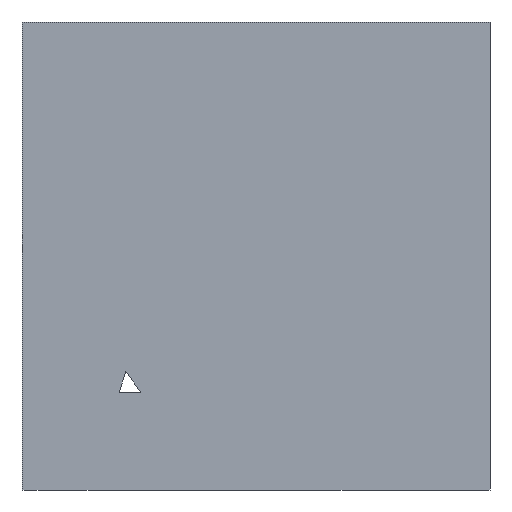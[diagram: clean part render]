
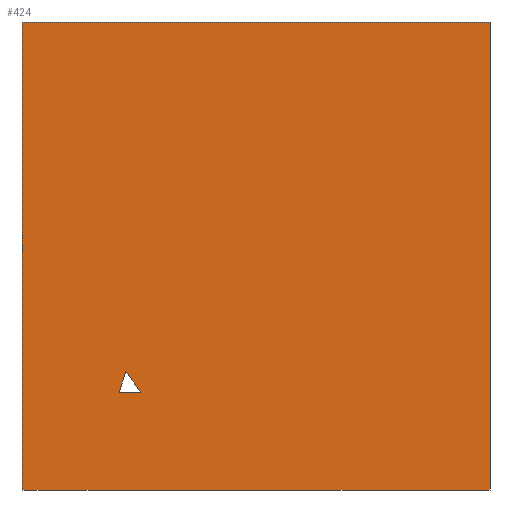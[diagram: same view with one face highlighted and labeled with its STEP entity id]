
A CAD part, front view. The second image highlights one B-rep face of the part: STEP entity #424.
In plain terms, the highlighted planar face has unit normal (0, -1, 0).
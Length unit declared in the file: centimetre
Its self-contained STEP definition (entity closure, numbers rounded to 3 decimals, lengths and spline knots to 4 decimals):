
#26 = CARTESIAN_POINT ( 'NONE',  ( 0., 0., 1000. ) ) ;
#29 = ORIENTED_EDGE ( 'NONE', *, *, #34, .T. ) ;
#31 = CARTESIAN_POINT ( 'NONE',  ( 222.1901, 0., 253.1845 ) ) ;
#34 = EDGE_CURVE ( 'NONE', #215, #506, #132, .T. ) ;
#51 = ORIENTED_EDGE ( 'NONE', *, *, #519, .F. ) ;
#52 = CARTESIAN_POINT ( 'NONE',  ( 1000., 0., 1000. ) ) ;
#54 = CARTESIAN_POINT ( 'NONE',  ( 0., 0., 1000. ) ) ;
#63 = CARTESIAN_POINT ( 'NONE',  ( 207.8131, 0., 208.3742 ) ) ;
#69 = DIRECTION ( 'NONE',  ( 0.306, 0., 0.952 ) ) ;
#108 = VECTOR ( 'NONE', #250, 100. ) ;
#114 = DIRECTION ( 'NONE',  ( 0., 0., -1. ) ) ;
#122 = DIRECTION ( 'NONE',  ( 0., 1., 0. ) ) ;
#131 = VERTEX_POINT ( 'NONE', #357 ) ;
#132 = LINE ( 'NONE', #63, #500 ) ;
#144 = LINE ( 'NONE', #31, #438 ) ;
#153 = EDGE_CURVE ( 'NONE', #506, #643, #144, .T. ) ;
#164 = EDGE_CURVE ( 'NONE', #131, #458, #472, .T. ) ;
#177 = CARTESIAN_POINT ( 'NONE',  ( 0., 0., 1000. ) ) ;
#192 = DIRECTION ( 'NONE',  ( -1., 0., 0. ) ) ;
#196 = LINE ( 'NONE', #388, #521 ) ;
#201 = EDGE_LOOP ( 'NONE', ( #598, #589, #29 ) ) ;
#214 = DIRECTION ( 'NONE',  ( 0.577, 0., -0.817 ) ) ;
#215 = VERTEX_POINT ( 'NONE', #705 ) ;
#222 = VECTOR ( 'NONE', #409, 100. ) ;
#225 = CARTESIAN_POINT ( 'NONE',  ( 222.1901, 0., 253.1845 ) ) ;
#250 = DIRECTION ( 'NONE',  ( 1., 0., 0. ) ) ;
#270 = CARTESIAN_POINT ( 'NONE',  ( 1000., 0., 1000. ) ) ;
#357 = CARTESIAN_POINT ( 'NONE',  ( 0., 0., 0. ) ) ;
#388 = CARTESIAN_POINT ( 'NONE',  ( 253.8085, 0., 208.3742 ) ) ;
#399 = EDGE_LOOP ( 'NONE', ( #460, #622, #51, #612 ) ) ;
#409 = DIRECTION ( 'NONE',  ( 1., 0., 0. ) ) ;
#424 = ADVANCED_FACE ( 'NONE', ( #446, #503 ), #665, .F. ) ;
#438 = VECTOR ( 'NONE', #69, 100. ) ;
#446 = FACE_BOUND ( 'NONE', #201, .T. ) ;
#453 = CARTESIAN_POINT ( 'NONE',  ( 0., 0., 1000. ) ) ;
#458 = VERTEX_POINT ( 'NONE', #574 ) ;
#460 = ORIENTED_EDGE ( 'NONE', *, *, #164, .T. ) ;
#461 = CARTESIAN_POINT ( 'NONE',  ( 0., 0., 0. ) ) ;
#472 = LINE ( 'NONE', #461, #222 ) ;
#481 = VECTOR ( 'NONE', #114, 100. ) ;
#500 = VECTOR ( 'NONE', #192, 100. ) ;
#503 = FACE_OUTER_BOUND ( 'NONE', #399, .T. ) ;
#506 = VERTEX_POINT ( 'NONE', #579 ) ;
#519 = EDGE_CURVE ( 'NONE', #694, #529, #520, .T. ) ;
#520 = LINE ( 'NONE', #26, #108 ) ;
#521 = VECTOR ( 'NONE', #214, 100. ) ;
#524 = EDGE_CURVE ( 'NONE', #643, #215, #196, .T. ) ;
#529 = VERTEX_POINT ( 'NONE', #52 ) ;
#555 = EDGE_CURVE ( 'NONE', #529, #458, #597, .T. ) ;
#574 = CARTESIAN_POINT ( 'NONE',  ( 1000., 0., 0. ) ) ;
#579 = CARTESIAN_POINT ( 'NONE',  ( 207.8131, 0., 208.3742 ) ) ;
#589 = ORIENTED_EDGE ( 'NONE', *, *, #524, .T. ) ;
#597 = LINE ( 'NONE', #270, #609 ) ;
#598 = ORIENTED_EDGE ( 'NONE', *, *, #153, .T. ) ;
#604 = LINE ( 'NONE', #54, #481 ) ;
#609 = VECTOR ( 'NONE', #710, 100. ) ;
#610 = DIRECTION ( 'NONE',  ( 0., 0., 1. ) ) ;
#612 = ORIENTED_EDGE ( 'NONE', *, *, #660, .T. ) ;
#622 = ORIENTED_EDGE ( 'NONE', *, *, #555, .F. ) ;
#643 = VERTEX_POINT ( 'NONE', #225 ) ;
#660 = EDGE_CURVE ( 'NONE', #694, #131, #604, .T. ) ;
#665 = PLANE ( 'NONE',  #667 ) ;
#667 = AXIS2_PLACEMENT_3D ( 'NONE', #177, #122, #610 ) ;
#694 = VERTEX_POINT ( 'NONE', #453 ) ;
#705 = CARTESIAN_POINT ( 'NONE',  ( 253.8085, 0., 208.3742 ) ) ;
#710 = DIRECTION ( 'NONE',  ( 0., 0., -1. ) ) ;
